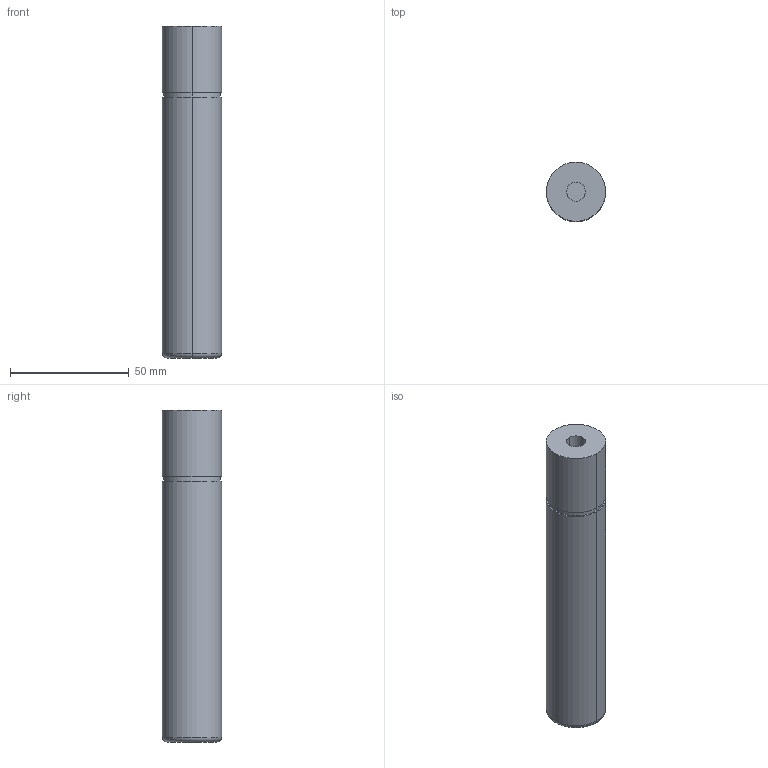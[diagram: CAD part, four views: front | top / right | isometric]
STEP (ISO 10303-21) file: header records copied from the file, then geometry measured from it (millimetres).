
FILE_DESCRIPTION(/* description */ (''),/* implementation_level */ '2;1');
FILE_NAME(/* name */ '3d_sgpn25-140_00285_r00.stp',/* time_stamp */ '2011-01-10T14:11:07+09:00',/* author */ ('MISUMI'),/* organization */ (''),/* preprocessor_version */ 'ST-DEVELOPER v11',/* originating_system */ 'UGS - NX 5.0',/* authorisation */ '');
FILE_SCHEMA (('CONFIG_CONTROL_DESIGN'));
Length unit declared in the file: millimetre
Products named in the file (1): 3d_sgpn25-140_00285_r00
Bounding box: 25 x 25 x 140 mm (x, y, z)
Volume: 67575.1 mm3; surface area: 12481.5 mm2
Topology: 1 solids, 1 shells, 15 faces, 28 edges, 18 vertices
Faces by surface type: cylinder 8, plane 5, torus 2
Entity records: 472 total; most frequent: DIRECTION 80, CARTESIAN_POINT 62, ORIENTED_EDGE 56, AXIS2_PLACEMENT_3D 36, EDGE_CURVE 28, CIRCLE 20, EDGE_LOOP 18, VERTEX_POINT 18
